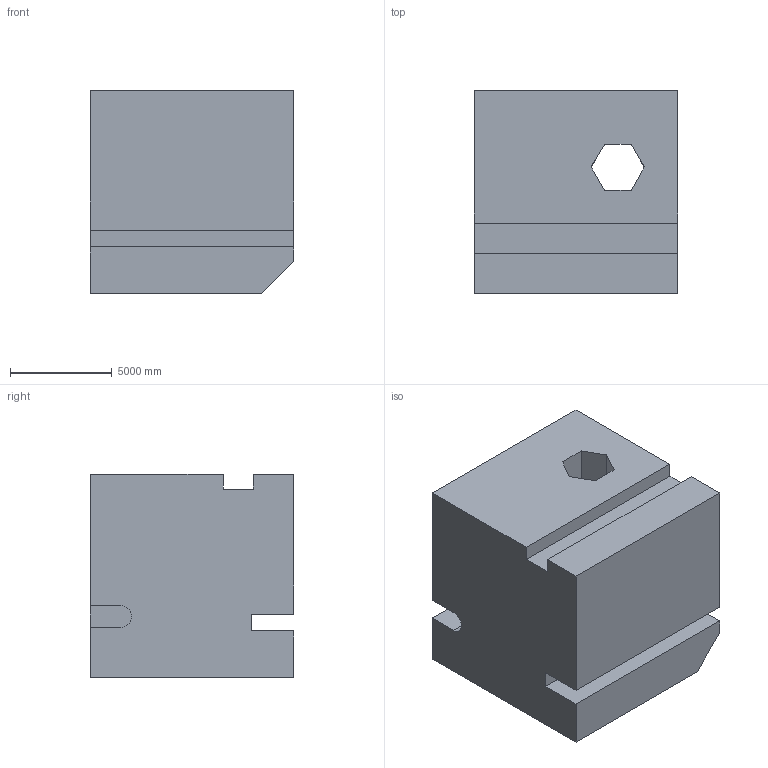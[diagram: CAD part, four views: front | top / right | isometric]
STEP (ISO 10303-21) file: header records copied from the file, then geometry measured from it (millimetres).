
FILE_DESCRIPTION (( 'STEP AP203' ), '1' );
FILE_NAME ('49.STEP', '2022-08-30T14:11:41', ( 'user' ), ( '' ), 'SwSTEP 2.0', 'SolidWorks 2021', '' );
FILE_SCHEMA (( 'CONFIG_CONTROL_DESIGN' ));
Length unit declared in the file: centimetre
Products named in the file (1): 49
Bounding box: 10000 x 10000 x 10000 mm (x, y, z)
Volume: 899556113278.7 mm3; surface area: 735437682.4 mm2
Topology: 1 solids, 1 shells, 25 faces, 69 edges, 46 vertices
Faces by surface type: plane 24, cylinder 1
Entity records: 866 total; most frequent: CARTESIAN_POINT 141, ORIENTED_EDGE 138, DIRECTION 123, EDGE_CURVE 69, VECTOR 67, LINE 67, VERTEX_POINT 46, AXIS2_PLACEMENT_3D 28
